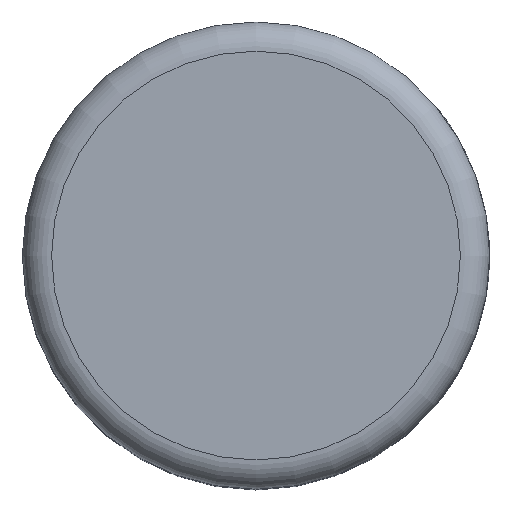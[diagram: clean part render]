
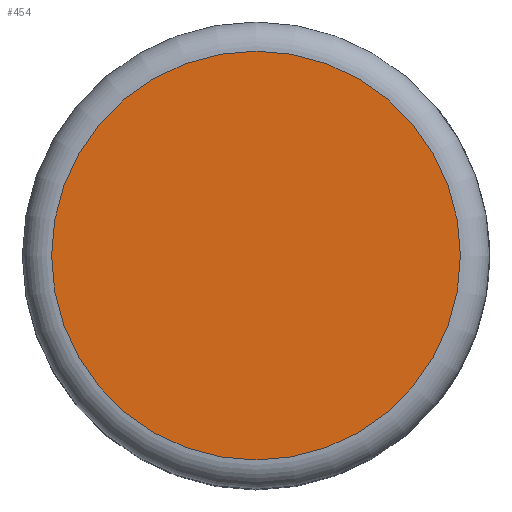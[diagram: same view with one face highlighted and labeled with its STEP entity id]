
A CAD part, top view. The second image highlights one B-rep face of the part: STEP entity #454.
In plain terms, the highlighted planar face has unit normal (0, 0, 1).
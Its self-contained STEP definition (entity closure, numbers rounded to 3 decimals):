
#454=ADVANCED_FACE('',(#479),#471,.F.);
#471=PLANE('',#780);
#479=FACE_OUTER_BOUND('',#521,.T.);
#521=EDGE_LOOP('',(#622));
#565=CIRCLE('',#764,7.);
#622=ORIENTED_EDGE('',*,*,#715,.F.);
#677=VERTEX_POINT('',#1037);
#715=EDGE_CURVE('',#677,#677,#565,.T.);
#764=AXIS2_PLACEMENT_3D('',#1036,#867,#868);
#780=AXIS2_PLACEMENT_3D('',#1060,#899,#900);
#867=DIRECTION('',(0.,0.,-1.));
#868=DIRECTION('',(-1.,0.,0.));
#899=DIRECTION('',(0.,0.,-1.));
#900=DIRECTION('',(1.,0.,0.));
#1036=CARTESIAN_POINT('',(0.,0.,15.8));
#1037=CARTESIAN_POINT('',(-7.,0.,15.8));
#1060=CARTESIAN_POINT('',(4.,0.,15.8));
